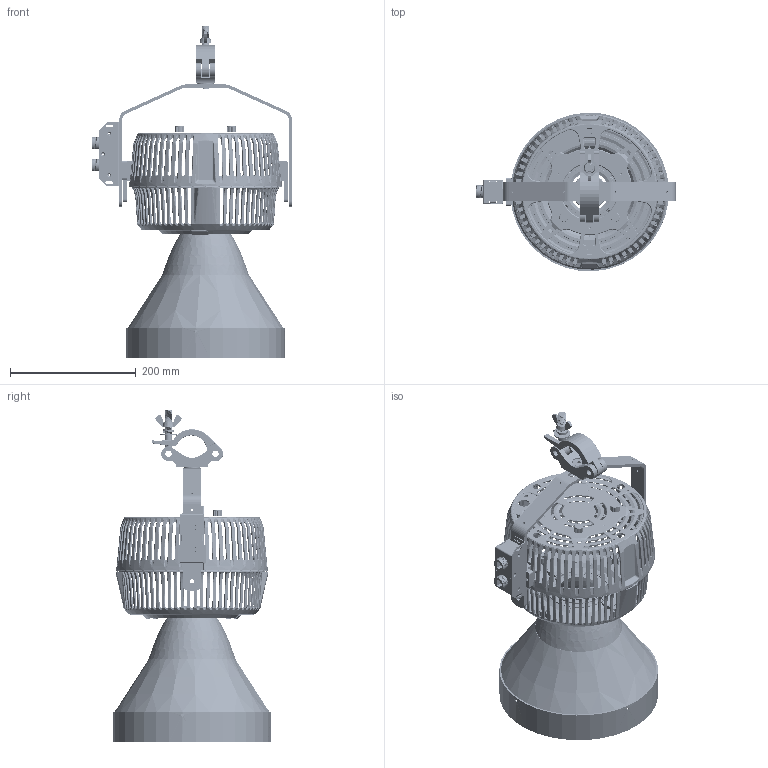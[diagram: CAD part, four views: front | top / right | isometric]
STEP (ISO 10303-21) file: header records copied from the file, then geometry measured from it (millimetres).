
FILE_DESCRIPTION (( 'STEP AP214' ), '1' );
FILE_NAME ('W2KS-CLP-Fixture.STEP', '2024-02-29T20:12:54', ( '' ), ( '' ), 'SwSTEP 2.0', 'SolidWorks 2022', '' );
FILE_SCHEMA (( 'AUTOMOTIVE_DESIGN' ));
Length unit declared in the file: millimetre
Products named in the file (21): PLATE_X3___.STEP; 5022499_X2_Single Arm Pivot Base___.STEP; 5021736-006_A2_Aluminum Hook, M12_Original.STEP; REFLECTOR-15_X2_0530___.STEP; 5022530-2022-01-10___.STEP; BOTTOM COVER_X2___.STEP; 5022531_X1_BOTTOM HOUSING FOR W2K&A2K.STEP; REFLECTOR-15 COVER_X3_0531___.STEP; 5021926_A1_KNOB, 18T, OD=14.9, ID=6, L=10MM___.STEP; REFLECTOR-15___.STEP; RJ45_WaterProof_3352I02029___.STEP; Top Assembly W2K_20220609_15.STEP; W2KS-CLP-Fixture; 5022646_X1_REFLECTOR-15___.STEP; CLP+TOKE___.STEP; RJ45_WaterProof_3352I02029-PCB Housing___.STEP; 5022495-XXX_A3_Yoke, 275x30x195mm___.STEP; DMX Signal Cable_X2___.STEP; SCREW, M8 L8 CAP HEAD, HEX SOCKET, SUS, BLACK___.STEP; 5022496_X2_Yoke Adapter___.STEP; TOP COVER_X2___.STEP
Assembly tree (23 placements, depth 5):
  W2KS-CLP-Fixture
    Top Assembly W2K_20220609_15.STEP
      DMX Signal Cable_X2___.STEP
        RJ45_WaterProof_3352I02029___.STEP  x2
          RJ45_WaterProof_3352I02029-PCB Housing___.STEP
        BOTTOM COVER_X2___.STEP
        TOP COVER_X2___.STEP
      CLP+TOKE___.STEP
        5021736-006_A2_Aluminum Hook, M12_Original.STEP
        5022495-XXX_A3_Yoke, 275x30x195mm___.STEP
      REFLECTOR-15___.STEP
        5022646_X1_REFLECTOR-15___.STEP
          REFLECTOR-15_X2_0530___.STEP
          REFLECTOR-15 COVER_X3_0531___.STEP
        PLATE_X3___.STEP
      5022531_X1_BOTTOM HOUSING FOR W2K&A2K.STEP
      5022496_X2_Yoke Adapter___.STEP  x2
      5022530-2022-01-10___.STEP
      5021926_A1_KNOB, 18T, OD=14.9, ID=6, L=10MM___.STEP  x2
      SCREW, M8 L8 CAP HEAD, HEX SOCKET, SUS, BLACK___.STEP
      5022499_X2_Single Arm Pivot Base___.STEP
Bounding box: 318.15 x 252.65 x 529.06 mm (x, y, z)
Volume: 735701.4 mm3; surface area: 732285.2 mm2
Topology: 24 solids, 24 shells, 6399 faces, 16967 edges, 10409 vertices
Faces by surface type: bspline 2415, plane 1561, cylinder 1425, torus 505, cone 475, sphere 18
Entity records: 371516 total; most frequent: CARTESIAN_POINT 245947, ORIENTED_EDGE 30692, DIRECTION 20562, EDGE_CURVE 15346, VERTEX_POINT 9349, AXIS2_PLACEMENT_3D 8567, B_SPLINE_CURVE_WITH_KNOTS 6600, EDGE_LOOP 6143
